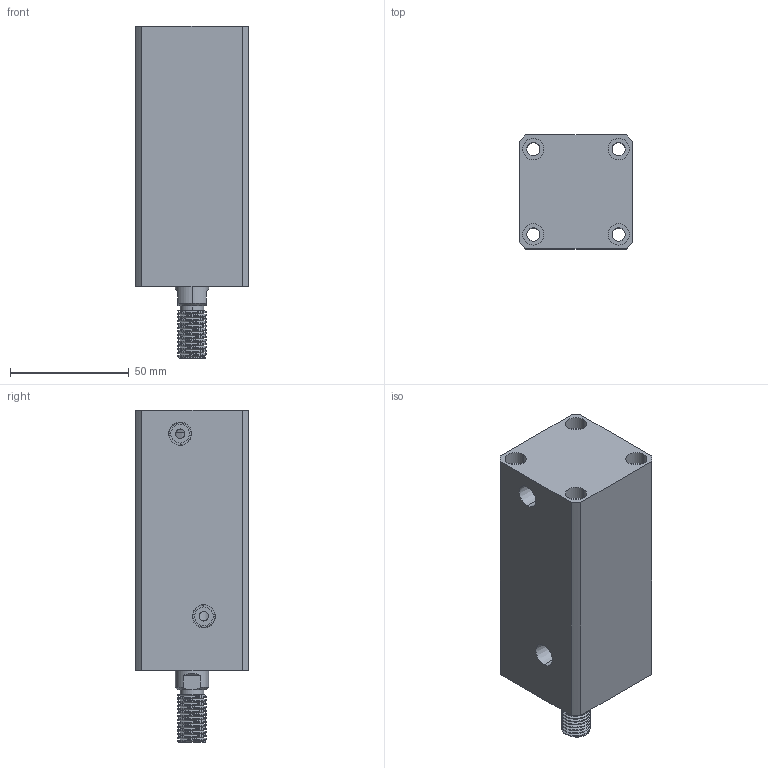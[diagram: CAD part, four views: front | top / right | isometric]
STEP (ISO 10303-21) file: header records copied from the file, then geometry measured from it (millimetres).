
FILE_DESCRIPTION (( 'STEP AP214' ), '1' );
FILE_NAME ('chtb-sd25x65w_asm.STEP', '2018-05-22T09:43:13', ( 'Windows' ), ( 'Microsoft' ), 'SwSTEP 2.0', 'SolidWorks 2015', '' );
FILE_SCHEMA (( 'AUTOMOTIVE_DESIGN' ));
Length unit declared in the file: millimetre
Products named in the file (4): chtb-sd25x65w_asm; CHTB-SD25X65WHSG; CHTB-SD25X65NBT; CHTB-25QG
Assembly tree (3 placements, depth 2):
  chtb-sd25x65w_asm
    CHTB-25QG
    CHTB-SD25X65NBT
    CHTB-SD25X65WHSG
Bounding box: 48 x 48 x 140 mm (x, y, z)
Volume: 218525.8 mm3; surface area: 54919.4 mm2
Topology: 3 solids, 3 shells, 178 faces, 474 edges, 323 vertices
Faces by surface type: cylinder 113, plane 39, cone 14, bspline 12
Entity records: 10610 total; most frequent: CARTESIAN_POINT 6273, ORIENTED_EDGE 940, DIRECTION 778, EDGE_CURVE 470, VERTEX_POINT 323, AXIS2_PLACEMENT_3D 317, EDGE_LOOP 217, FACE_OUTER_BOUND 178
